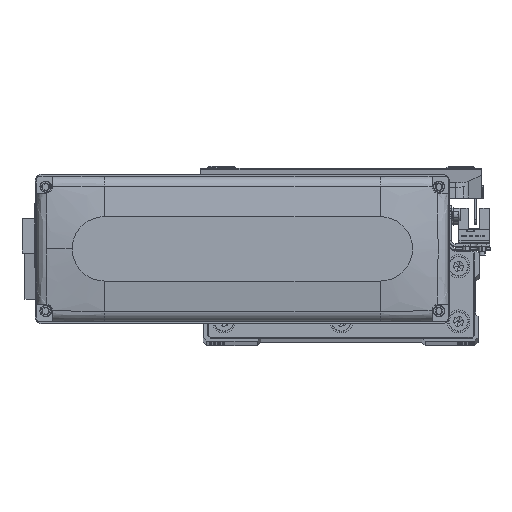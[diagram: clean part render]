
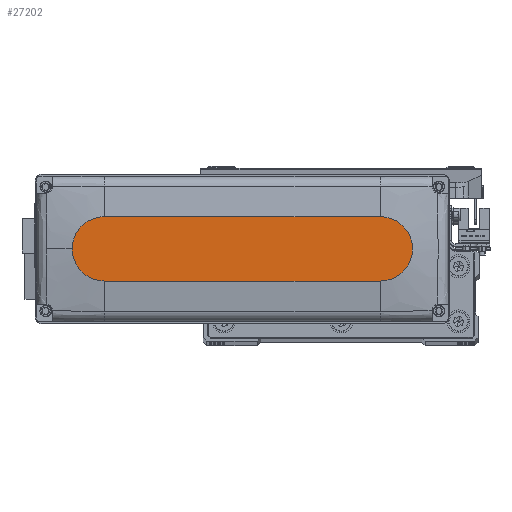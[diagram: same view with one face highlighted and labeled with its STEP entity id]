
A CAD part, top view. The second image highlights one B-rep face of the part: STEP entity #27202.
In plain terms, the highlighted planar face has unit normal (0, 0, 1).
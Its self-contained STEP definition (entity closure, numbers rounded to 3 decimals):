
#202 = VECTOR ( 'NONE', #30203, 1000. ) ;
#543 = LINE ( 'NONE', #15357, #202 ) ;
#973 = EDGE_CURVE ( 'NONE', #15784, #2724, #543, .T. ) ;
#1705 = DIRECTION ( 'NONE',  ( -1., 0., 0. ) ) ;
#2724 = VERTEX_POINT ( 'NONE', #11196 ) ;
#3240 = DIRECTION ( 'NONE',  ( 1., 0., 0. ) ) ;
#4617 = CARTESIAN_POINT ( 'NONE',  ( 60., 14., 28.5 ) ) ;
#5071 = CARTESIAN_POINT ( 'NONE',  ( 0., 0., 28.5 ) ) ;
#5495 = ORIENTED_EDGE ( 'NONE', *, *, #12353, .T. ) ;
#5515 = AXIS2_PLACEMENT_3D ( 'NONE', #32551, #47361, #14066 ) ;
#7310 = EDGE_LOOP ( 'NONE', ( #29590, #5495, #20059, #47058, #45142 ) ) ;
#10908 = CIRCLE ( 'NONE', #17116, 14. ) ;
#11196 = CARTESIAN_POINT ( 'NONE',  ( 60., -14., 28.5 ) ) ;
#12353 = EDGE_CURVE ( 'NONE', #20429, #15784, #10908, .T. ) ;
#13851 = DIRECTION ( 'NONE',  ( 0., 0., 1. ) ) ;
#13982 = EDGE_CURVE ( 'NONE', #25709, #30235, #26442, .T. ) ;
#14066 = DIRECTION ( 'NONE',  ( 1., 0., 0. ) ) ;
#14631 = AXIS2_PLACEMENT_3D ( 'NONE', #5071, #19890, #34726 ) ;
#15357 = CARTESIAN_POINT ( 'NONE',  ( -60., -14., 28.5 ) ) ;
#15784 = VERTEX_POINT ( 'NONE', #35267 ) ;
#16831 = VECTOR ( 'NONE', #1705, 1000. ) ;
#17116 = AXIS2_PLACEMENT_3D ( 'NONE', #21693, #36527, #3240 ) ;
#19890 = DIRECTION ( 'NONE',  ( 0., 0., 1. ) ) ;
#20059 = ORIENTED_EDGE ( 'NONE', *, *, #973, .T. ) ;
#20165 = LINE ( 'NONE', #35002, #16831 ) ;
#20429 = VERTEX_POINT ( 'NONE', #41182 ) ;
#21362 = CARTESIAN_POINT ( 'NONE',  ( 74., 0., 28.5 ) ) ;
#21693 = CARTESIAN_POINT ( 'NONE',  ( -60., 0., 28.5 ) ) ;
#23531 = FACE_OUTER_BOUND ( 'NONE', #7310, .T. ) ;
#24082 = EDGE_CURVE ( 'NONE', #30235, #20429, #20165, .T. ) ;
#25709 = VERTEX_POINT ( 'NONE', #21362 ) ;
#26442 = CIRCLE ( 'NONE', #5515, 14. ) ;
#26852 = AXIS2_PLACEMENT_3D ( 'NONE', #47155, #13851, #28698 ) ;
#27202 = ADVANCED_FACE ( 'NONE', ( #23531 ), #38362, .T. ) ;
#28260 = EDGE_CURVE ( 'NONE', #2724, #25709, #47794, .T. ) ;
#28698 = DIRECTION ( 'NONE',  ( 1., 0., 0. ) ) ;
#29590 = ORIENTED_EDGE ( 'NONE', *, *, #24082, .T. ) ;
#30203 = DIRECTION ( 'NONE',  ( 1., 0., 0. ) ) ;
#30235 = VERTEX_POINT ( 'NONE', #4617 ) ;
#32551 = CARTESIAN_POINT ( 'NONE',  ( 60., 0., 28.5 ) ) ;
#34726 = DIRECTION ( 'NONE',  ( 1., 0., 0. ) ) ;
#35002 = CARTESIAN_POINT ( 'NONE',  ( -60., 14., 28.5 ) ) ;
#35267 = CARTESIAN_POINT ( 'NONE',  ( -60., -14., 28.5 ) ) ;
#36527 = DIRECTION ( 'NONE',  ( 0., 0., 1. ) ) ;
#38362 = PLANE ( 'NONE',  #14631 ) ;
#41182 = CARTESIAN_POINT ( 'NONE',  ( -60., 14., 28.5 ) ) ;
#45142 = ORIENTED_EDGE ( 'NONE', *, *, #13982, .T. ) ;
#47058 = ORIENTED_EDGE ( 'NONE', *, *, #28260, .T. ) ;
#47155 = CARTESIAN_POINT ( 'NONE',  ( 60., 0., 28.5 ) ) ;
#47361 = DIRECTION ( 'NONE',  ( 0., 0., 1. ) ) ;
#47794 = CIRCLE ( 'NONE', #26852, 14. ) ;
